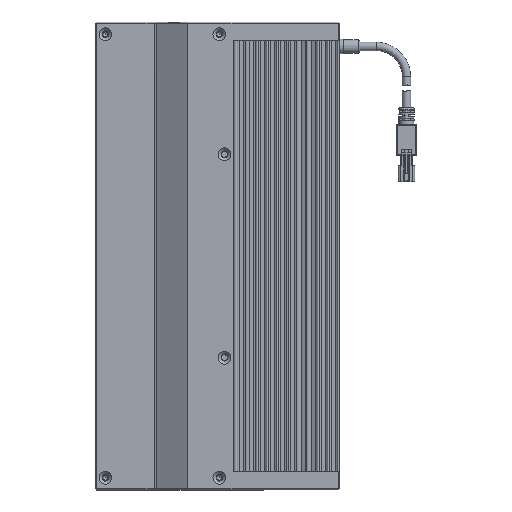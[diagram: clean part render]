
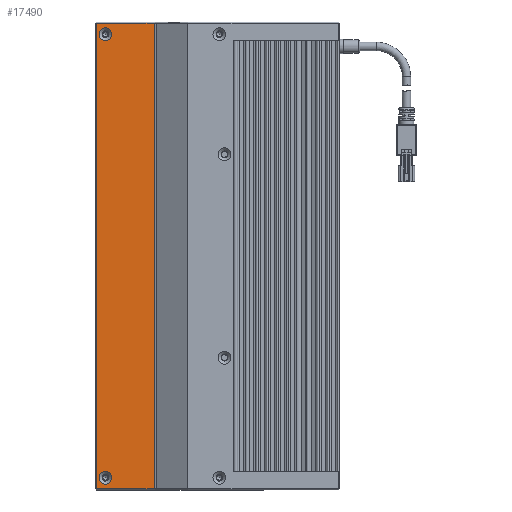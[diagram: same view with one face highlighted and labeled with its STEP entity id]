
A CAD part, left-side view. The second image highlights one B-rep face of the part: STEP entity #17490.
In plain terms, the highlighted planar face has unit normal (-1, 0, 0).
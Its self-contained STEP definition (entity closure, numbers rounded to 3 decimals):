
#852 = EDGE_LOOP ( 'NONE', ( #3735, #6403, #18681, #27191 ) ) ;
#2010 = EDGE_LOOP ( 'NONE', ( #9568 ) ) ;
#2090 = EDGE_CURVE ( 'NONE', #2439, #14545, #3434, .T. ) ;
#2324 = DIRECTION ( 'NONE',  ( 0., 0., -1. ) ) ;
#2439 = VERTEX_POINT ( 'NONE', #32070 ) ;
#3434 = LINE ( 'NONE', #10240, #5898 ) ;
#3699 = DIRECTION ( 'NONE',  ( 0., 0., -1. ) ) ;
#3735 = ORIENTED_EDGE ( 'NONE', *, *, #2090, .F. ) ;
#4546 = DIRECTION ( 'NONE',  ( -1., 0., 0. ) ) ;
#5488 = AXIS2_PLACEMENT_3D ( 'NONE', #23224, #33284, #2324 ) ;
#5648 = LINE ( 'NONE', #15384, #25289 ) ;
#5898 = VECTOR ( 'NONE', #25620, 1000. ) ;
#6402 = CIRCLE ( 'NONE', #9089, 3.15 ) ;
#6403 = ORIENTED_EDGE ( 'NONE', *, *, #12676, .F. ) ;
#7044 = FACE_BOUND ( 'NONE', #2010, .T. ) ;
#8101 = VECTOR ( 'NONE', #16689, 1000. ) ;
#9089 = AXIS2_PLACEMENT_3D ( 'NONE', #19045, #14260, #19387 ) ;
#9568 = ORIENTED_EDGE ( 'NONE', *, *, #33907, .F. ) ;
#10240 = CARTESIAN_POINT ( 'NONE',  ( -15.462, 21.439, 347.5 ) ) ;
#10672 = VERTEX_POINT ( 'NONE', #31810 ) ;
#12030 = AXIS2_PLACEMENT_3D ( 'NONE', #27860, #4546, #22774 ) ;
#12676 = EDGE_CURVE ( 'NONE', #15941, #2439, #5648, .T. ) ;
#13304 = CARTESIAN_POINT ( 'NONE',  ( -15.462, 16.939, 346.65 ) ) ;
#13603 = EDGE_CURVE ( 'NONE', #14545, #15556, #21938, .T. ) ;
#14260 = DIRECTION ( 'NONE',  ( -1., 0., 0. ) ) ;
#14545 = VERTEX_POINT ( 'NONE', #24171 ) ;
#15384 = CARTESIAN_POINT ( 'NONE',  ( -15.462, -7.561, 120. ) ) ;
#15556 = VERTEX_POINT ( 'NONE', #29380 ) ;
#15941 = VERTEX_POINT ( 'NONE', #23933 ) ;
#16400 = FACE_OUTER_BOUND ( 'NONE', #852, .T. ) ;
#16689 = DIRECTION ( 'NONE',  ( 0., -1., 0. ) ) ;
#17490 = ADVANCED_FACE ( 'NONE', ( #7044, #31988, #16400 ), #25768, .F. ) ;
#18681 = ORIENTED_EDGE ( 'NONE', *, *, #21458, .F. ) ;
#18881 = EDGE_LOOP ( 'NONE', ( #31444 ) ) ;
#19045 = CARTESIAN_POINT ( 'NONE',  ( -15.462, 16.939, 343.5 ) ) ;
#19387 = DIRECTION ( 'NONE',  ( 0., 0., 1. ) ) ;
#21458 = EDGE_CURVE ( 'NONE', #15556, #15941, #30012, .T. ) ;
#21938 = LINE ( 'NONE', #24602, #8101 ) ;
#22040 = CARTESIAN_POINT ( 'NONE',  ( -15.462, -6.987, 347.5 ) ) ;
#22160 = VECTOR ( 'NONE', #3699, 1000. ) ;
#22774 = DIRECTION ( 'NONE',  ( 0., 0., 1. ) ) ;
#23224 = CARTESIAN_POINT ( 'NONE',  ( -15.462, -7.561, 347.5 ) ) ;
#23850 = EDGE_CURVE ( 'NONE', #28291, #28291, #6402, .T. ) ;
#23933 = CARTESIAN_POINT ( 'NONE',  ( -15.462, -6.987, 120. ) ) ;
#24171 = CARTESIAN_POINT ( 'NONE',  ( -15.462, 21.439, 349. ) ) ;
#24602 = CARTESIAN_POINT ( 'NONE',  ( -15.462, -7.561, 349. ) ) ;
#25289 = VECTOR ( 'NONE', #28602, 1000. ) ;
#25620 = DIRECTION ( 'NONE',  ( 0., 0., 1. ) ) ;
#25768 = PLANE ( 'NONE',  #5488 ) ;
#26620 = CIRCLE ( 'NONE', #12030, 3.15 ) ;
#27191 = ORIENTED_EDGE ( 'NONE', *, *, #13603, .F. ) ;
#27860 = CARTESIAN_POINT ( 'NONE',  ( -15.462, 16.939, 125.5 ) ) ;
#28291 = VERTEX_POINT ( 'NONE', #13304 ) ;
#28602 = DIRECTION ( 'NONE',  ( 0., 1., 0. ) ) ;
#29380 = CARTESIAN_POINT ( 'NONE',  ( -15.462, -6.987, 349. ) ) ;
#30012 = LINE ( 'NONE', #22040, #22160 ) ;
#31444 = ORIENTED_EDGE ( 'NONE', *, *, #23850, .F. ) ;
#31810 = CARTESIAN_POINT ( 'NONE',  ( -15.462, 16.939, 128.65 ) ) ;
#31988 = FACE_BOUND ( 'NONE', #18881, .T. ) ;
#32070 = CARTESIAN_POINT ( 'NONE',  ( -15.462, 21.439, 120. ) ) ;
#33284 = DIRECTION ( 'NONE',  ( 1., 0., 0. ) ) ;
#33907 = EDGE_CURVE ( 'NONE', #10672, #10672, #26620, .T. ) ;
